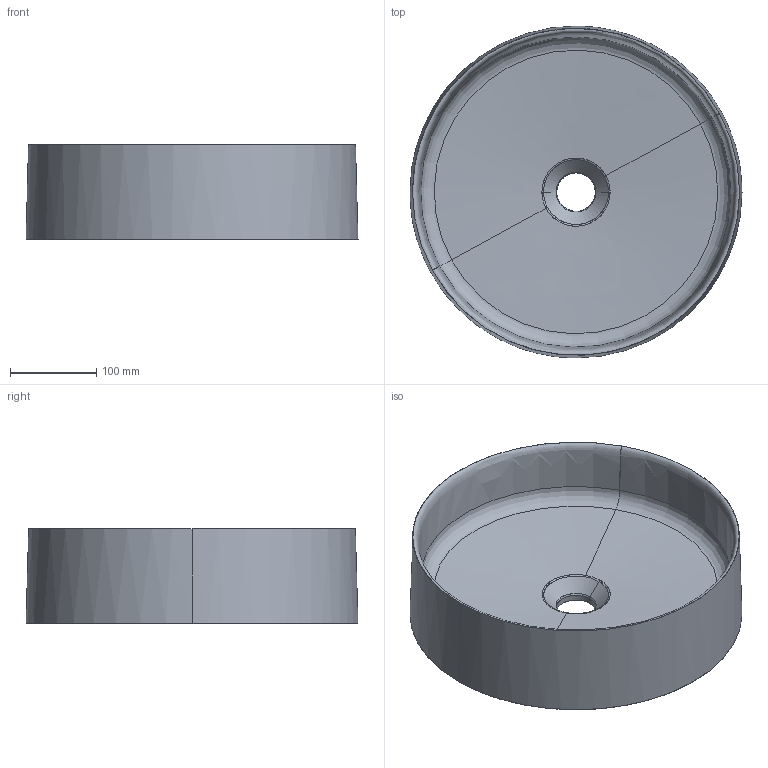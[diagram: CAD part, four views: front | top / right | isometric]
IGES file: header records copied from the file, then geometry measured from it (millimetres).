
Start section: START RECORD GO HERE.
Global section: file name: ART 7405 tondo 38.igs; native system: DASSAULT SYSTEMES CATIA V5 R19 - www.3ds.com; preprocessor: CATIA Version 5 Release 19 SP 5 ; author: Luca; organization: DESKTOP-V7SON24; date: 20181015.134909; units: millimetre
Bounding box: 385.76 x 385.74 x 110 mm (x, y, z)
Surface area: 458662.3 mm2 (no closed solid volume)
Topology: 0 solids, 0 shells, 46 faces, 200 edges, 200 vertices
Faces by surface type: bspline 34, revolution 8, plane 4
